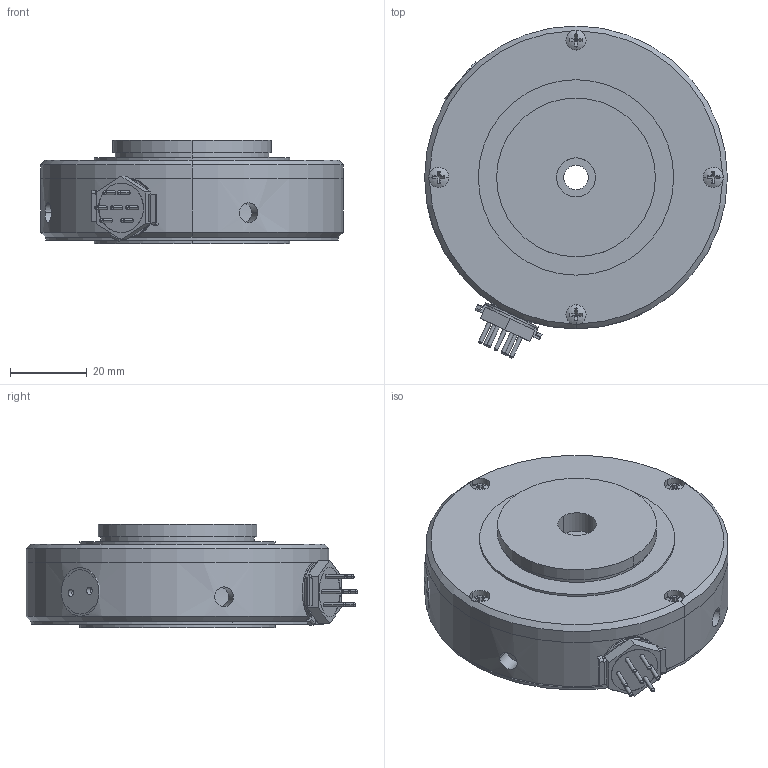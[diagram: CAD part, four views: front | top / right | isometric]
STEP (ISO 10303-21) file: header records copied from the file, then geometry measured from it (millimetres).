
FILE_DESCRIPTION (( 'STEP AP214' ), '1' );
FILE_NAME ('LS2-3-6 HOUSE dumb.STEP', '2013-07-17T17:10:20', ( 'helen' ), ( 'Microsoft' ), 'SwSTEP 2.0', 'SolidWorks 2010', '' );
FILE_SCHEMA (( 'AUTOMOTIVE_DESIGN' ));
Length unit declared in the file: inch
Products named in the file (1): LS2-3-6 HOUSE dumb
Bounding box: 78.74 x 86.29 x 26.8 mm (x, y, z)
Volume: 90302.5 mm3; surface area: 37047.8 mm2
Topology: 11 solids, 11 shells, 1445 faces, 3792 edges, 2474 vertices
Faces by surface type: plane 646, cylinder 442, cone 168, bspline 159, torus 22, sphere 8
Entity records: 78545 total; most frequent: CARTESIAN_POINT 24099, ORIENTED_EDGE 7560, DIRECTION 7148, EDGE_CURVE 3780, VERTEX_POINT 2474, AXIS2_PLACEMENT_3D 2473, LINE 2202, VECTOR 2202
